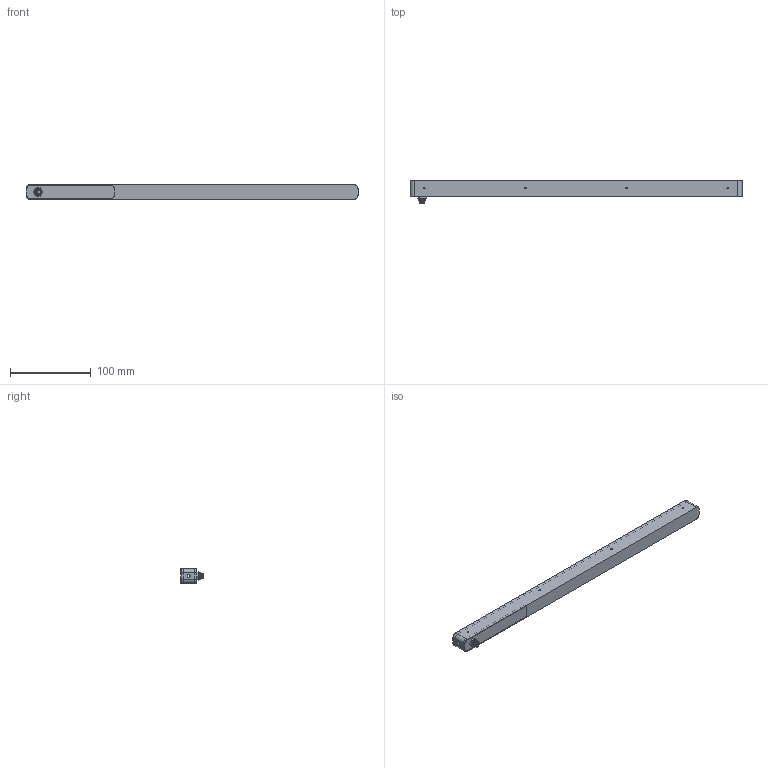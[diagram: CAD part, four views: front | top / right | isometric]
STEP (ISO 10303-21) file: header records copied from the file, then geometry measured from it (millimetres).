
FILE_DESCRIPTION (( 'STEP AP214' ), '1' );
FILE_NAME ('00890.01 Basisbaugruppe SBL-0140 Step18082020.STEP', '2020-08-18T13:04:35', ( '' ), ( '' ), 'SwSTEP 2.0', 'SolidWorks 2013', '' );
FILE_SCHEMA (( 'AUTOMOTIVE_DESIGN' ));
Length unit declared in the file: millimetre
Products named in the file (1): 00890.01 Basisbaugruppe SBL-0140 Step18082020
Bounding box: 410 x 28 x 18 mm (x, y, z)
Surface area: 38027.5 mm2 (no closed solid volume)
Topology: 0 solids, 9 shells, 77 faces, 229 edges, 163 vertices
Faces by surface type: cylinder 37, plane 33, cone 5, bspline 2
Full cylindrical faces by diameter (mm): 1 x4, 2.05 x8, 3.3 x2, 5.8 x1, 6.5 x2, 6.9 x1, 8 x1
Entity records: 3980 total; most frequent: CARTESIAN_POINT 1176, DIRECTION 424, ORIENTED_EDGE 309, EDGE_CURVE 194, AXIS2_PLACEMENT_3D 169, VERTEX_POINT 154, EDGE_LOOP 119, FACE_OUTER_BOUND 98
